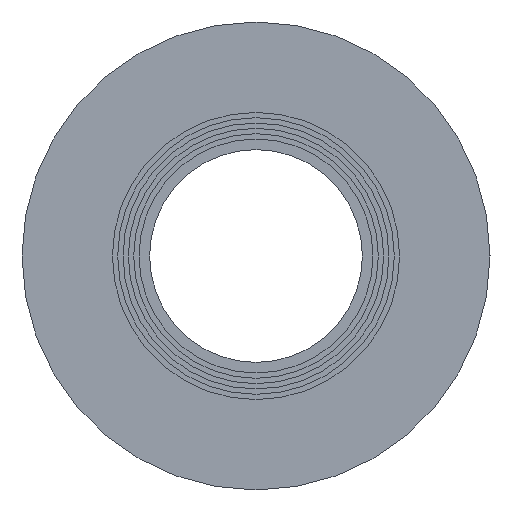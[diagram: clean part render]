
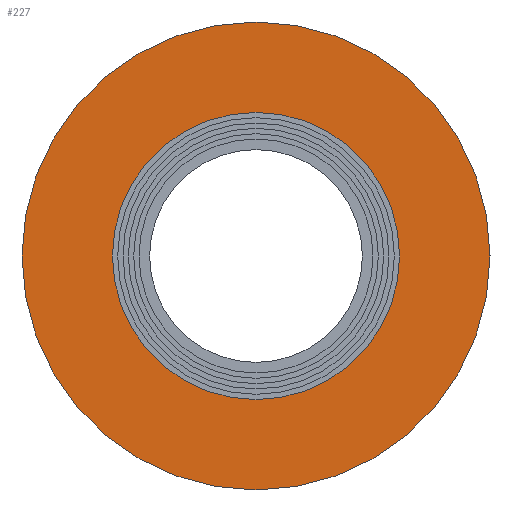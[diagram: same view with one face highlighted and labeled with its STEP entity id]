
A CAD part, left-side view. The second image highlights one B-rep face of the part: STEP entity #227.
In plain terms, the highlighted planar face has unit normal (-1, 0, 0).
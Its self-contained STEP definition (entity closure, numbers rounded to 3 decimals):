
#19=PLANE('',#265);
#45=FACE_BOUND('',#98,.T.);
#65=FACE_OUTER_BOUND('',#97,.T.);
#97=EDGE_LOOP('',(#197));
#98=EDGE_LOOP('',(#198));
#128=CIRCLE('',#263,27.);
#129=CIRCLE('',#266,44.);
#148=VERTEX_POINT('',#401);
#149=VERTEX_POINT('',#405);
#168=EDGE_CURVE('',#148,#148,#128,.T.);
#169=EDGE_CURVE('',#149,#149,#129,.T.);
#197=ORIENTED_EDGE('',*,*,#169,.F.);
#198=ORIENTED_EDGE('',*,*,#168,.T.);
#227=ADVANCED_FACE('',(#65,#45),#19,.T.);
#263=AXIS2_PLACEMENT_3D('',#402,#331,#332);
#265=AXIS2_PLACEMENT_3D('',#404,#335,#336);
#266=AXIS2_PLACEMENT_3D('',#406,#337,#338);
#331=DIRECTION('center_axis',(1.,0.,0.));
#332=DIRECTION('ref_axis',(0.,0.,-1.));
#335=DIRECTION('center_axis',(-1.,0.,0.));
#336=DIRECTION('ref_axis',(0.,0.,1.));
#337=DIRECTION('center_axis',(1.,0.,0.));
#338=DIRECTION('ref_axis',(0.,0.,-1.));
#401=CARTESIAN_POINT('',(-104.,0.,27.));
#402=CARTESIAN_POINT('Origin',(-104.,0.,0.));
#404=CARTESIAN_POINT('Origin',(-104.,44.,0.));
#405=CARTESIAN_POINT('',(-104.,44.,0.));
#406=CARTESIAN_POINT('Origin',(-104.,0.,0.));
